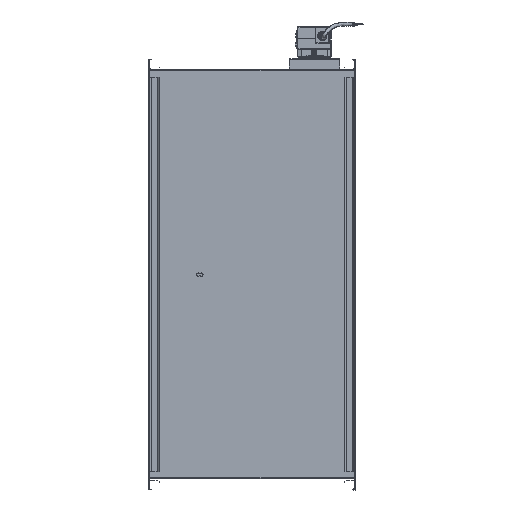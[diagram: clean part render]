
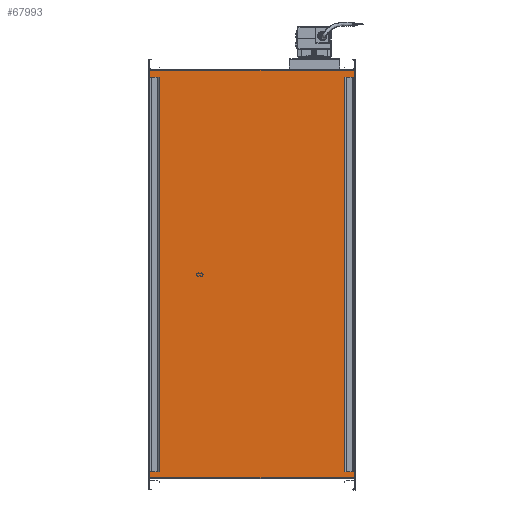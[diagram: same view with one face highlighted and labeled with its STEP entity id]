
A CAD part, front view. The second image highlights one B-rep face of the part: STEP entity #67993.
In plain terms, the highlighted planar face has unit normal (0, -1, 0).
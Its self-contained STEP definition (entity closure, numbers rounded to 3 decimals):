
#674 = CARTESIAN_POINT ( 'NONE',  ( 155.577, -385.848, 1498. ) ) ;
#1654 = CARTESIAN_POINT ( 'NONE',  ( -244.423, -385.848, 702. ) ) ;
#4134 = VERTEX_POINT ( 'NONE', #86074 ) ;
#4458 = DIRECTION ( 'NONE',  ( 0., -1., 0. ) ) ;
#4751 = CARTESIAN_POINT ( 'NONE',  ( -244.423, -385.848, 702. ) ) ;
#7953 = LINE ( 'NONE', #1654, #58395 ) ;
#8784 = EDGE_LOOP ( 'NONE', ( #78040, #18412, #49200, #29300 ) ) ;
#13548 = CARTESIAN_POINT ( 'NONE',  ( -244.423, -385.848, 1498. ) ) ;
#14370 = EDGE_CURVE ( 'NONE', #85370, #36484, #7953, .T. ) ;
#15538 = VERTEX_POINT ( 'NONE', #674 ) ;
#18412 = ORIENTED_EDGE ( 'NONE', *, *, #41202, .F. ) ;
#27306 = EDGE_CURVE ( 'NONE', #15538, #36484, #81779, .T. ) ;
#29300 = ORIENTED_EDGE ( 'NONE', *, *, #14370, .T. ) ;
#33997 = PLANE ( 'NONE',  #71303 ) ;
#36484 = VERTEX_POINT ( 'NONE', #52223 ) ;
#41202 = EDGE_CURVE ( 'NONE', #4134, #15538, #72111, .T. ) ;
#44289 = DIRECTION ( 'NONE',  ( 1., 0., 0. ) ) ;
#49200 = ORIENTED_EDGE ( 'NONE', *, *, #72852, .T. ) ;
#51934 = VECTOR ( 'NONE', #69184, 1000. ) ;
#52223 = CARTESIAN_POINT ( 'NONE',  ( 155.577, -385.848, 702. ) ) ;
#55289 = DIRECTION ( 'NONE',  ( 0., 0., -1. ) ) ;
#58395 = VECTOR ( 'NONE', #44289, 1000. ) ;
#63942 = FACE_OUTER_BOUND ( 'NONE', #8784, .T. ) ;
#67993 = ADVANCED_FACE ( 'NONE', ( #63942 ), #33997, .T. ) ;
#69184 = DIRECTION ( 'NONE',  ( 0., 0., -1. ) ) ;
#69778 = CARTESIAN_POINT ( 'NONE',  ( -244.423, -385.848, 702. ) ) ;
#71303 = AXIS2_PLACEMENT_3D ( 'NONE', #69778, #4458, #55289 ) ;
#72111 = LINE ( 'NONE', #13548, #94767 ) ;
#72852 = EDGE_CURVE ( 'NONE', #4134, #85370, #77431, .T. ) ;
#76904 = VECTOR ( 'NONE', #81308, 1000. ) ;
#77431 = LINE ( 'NONE', #92893, #51934 ) ;
#78040 = ORIENTED_EDGE ( 'NONE', *, *, #27306, .F. ) ;
#80830 = CARTESIAN_POINT ( 'NONE',  ( 155.577, -385.848, 702. ) ) ;
#81308 = DIRECTION ( 'NONE',  ( 0., 0., -1. ) ) ;
#81779 = LINE ( 'NONE', #80830, #76904 ) ;
#85370 = VERTEX_POINT ( 'NONE', #4751 ) ;
#86074 = CARTESIAN_POINT ( 'NONE',  ( -244.423, -385.848, 1498. ) ) ;
#88058 = DIRECTION ( 'NONE',  ( 1., 0., 0. ) ) ;
#92893 = CARTESIAN_POINT ( 'NONE',  ( -244.423, -385.848, 702. ) ) ;
#94767 = VECTOR ( 'NONE', #88058, 1000. ) ;
